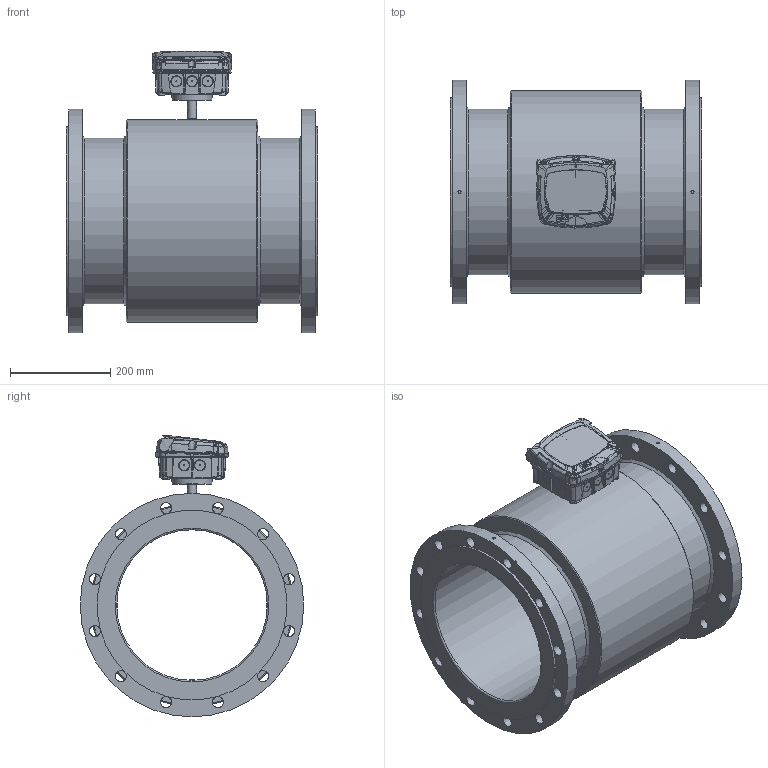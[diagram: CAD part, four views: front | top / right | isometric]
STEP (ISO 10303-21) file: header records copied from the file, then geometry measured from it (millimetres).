
FILE_DESCRIPTION((''),'2;1');
FILE_NAME('C:\Users\Claus\Dropbox\Projects 2011 - 2012\MJK Automation AS\DN 300 - DIN EN-1095-1.stp','2014-10-24T15:14:15',('Claus'),(''),'Autodesk Inventor 2013','Autodesk Inventor 2013','');
FILE_SCHEMA(('AUTOMOTIVE_DESIGN { 1 0 10303 214 1 1 1 1 }'));
Length unit declared in the file: millimetre
Products named in the file (7): DN 300 - DIN EN-1095-1; FC_MagFlux_assembly_r1; CH Bund ml; FC Top rev 06.04; CH 03.02; Electrode group DN15 - DN32
Assembly tree (8 placements, depth 3):
  DN 300 - DIN EN-1095-1
    DN 300 - DIN EN-1095-1
    FC_MagFlux_assembly_r1
      CH Bund ml
      FC Top rev 06.04
      CH 03.02
    Electrode group DN15 - DN32  x3
Bounding box: 500 x 445 x 560.84 mm (x, y, z)
Volume: 22686670.3 mm3; surface area: 1726590.3 mm2
Topology: 10 solids, 10 shells, 2943 faces, 8065 edges, 5242 vertices
Faces by surface type: bspline 1752, plane 810, cylinder 218, cone 123, torus 25, revolution 9, sphere 6
Full cylindrical faces by diameter (mm): 2.5 x3, 3 x6, 4 x1, 6 x2, 6.5 x4, 7.042 x4, 8 x3, 8.048 x4, 12.072 x4, 15 x1, 18 x1, 18.108 x1, 22 x24, 64 x1, 300 x1, 330 x2, 378 x2, 404 x1, 445 x2
Entity records: 234462 total; most frequent: CARTESIAN_POINT 171630, ORIENTED_EDGE 15572, DIRECTION 7849, EDGE_CURVE 7786, VERTEX_POINT 5155, EDGE_LOOP 3281, VECTOR 3112, LINE 3112
